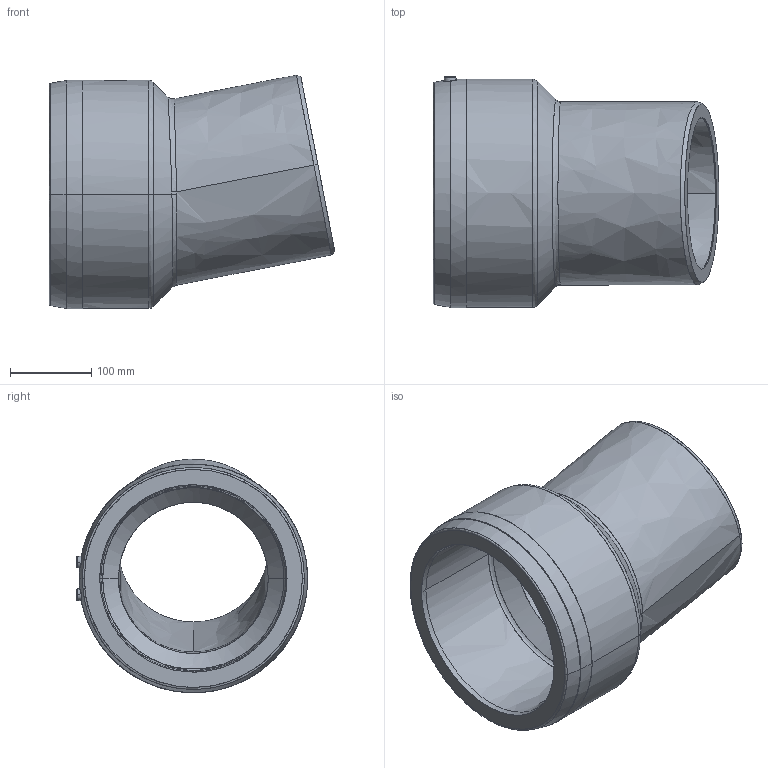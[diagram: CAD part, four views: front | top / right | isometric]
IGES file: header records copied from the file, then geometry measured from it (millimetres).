
Start section:  PTC IGES file: ws11_d225.igs
Global section: file name: ws11_d225.igs; native system: Pro/ENGINEER by Parametric Technology Corporation; preprocessor: 2011490; author: mtunjic; organization: Unknown; date: 20130807.140830; units: millimetre
Bounding box: 350.72 x 283.9 x 286.59 mm (x, y, z)
Surface area: 512120.9 mm2 (no closed solid volume)
Topology: 0 solids, 0 shells, 191 faces, 956 edges, 954 vertices
Faces by surface type: bspline 191
